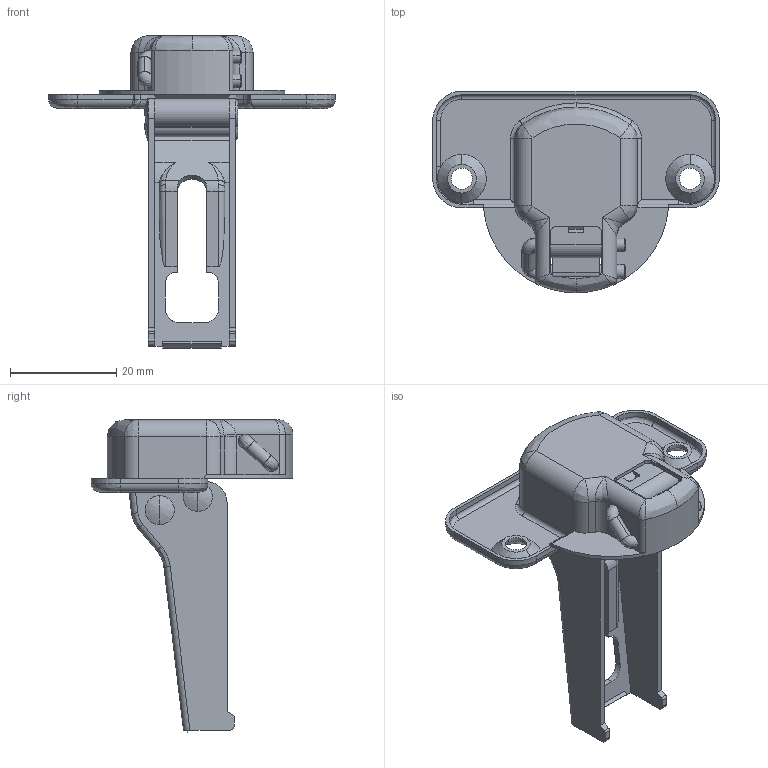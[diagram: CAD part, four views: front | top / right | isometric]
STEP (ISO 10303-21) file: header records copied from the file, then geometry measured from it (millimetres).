
FILE_DESCRIPTION (( 'STEP AP203' ), '1' );
FILE_NAME ('100_46_14_0.STEP', '2013-05-30T04:06:39', ( '' ), ( '' ), 'SwSTEP 2.0', 'SolidWorks 2012', '' );
FILE_SCHEMA (( 'CONFIG_CONTROL_DESIGN' ));
Length unit declared in the file: millimetre
Products named in the file (5): 100_46_14_0; 100SUS_socket; 100SUS_arm_B; 100SUS_arm_A; 100SUS_body_14
Assembly tree (4 placements, depth 2):
  100_46_14_0
    100SUS_body_14
    100SUS_arm_A
    100SUS_arm_B
    100SUS_socket
Bounding box: 54 x 38 x 58.88 mm (x, y, z)
Volume: 6034 mm3; surface area: 12590.5 mm2
Topology: 4 solids, 4 shells, 738 faces, 1946 edges, 1217 vertices
Faces by surface type: plane 317, cylinder 193, bspline 182, cone 34, torus 12
Entity records: 32415 total; most frequent: CARTESIAN_POINT 14889, ORIENTED_EDGE 3848, DIRECTION 3099, EDGE_CURVE 1924, VERTEX_POINT 1217, VECTOR 1103, LINE 1103, AXIS2_PLACEMENT_3D 998
